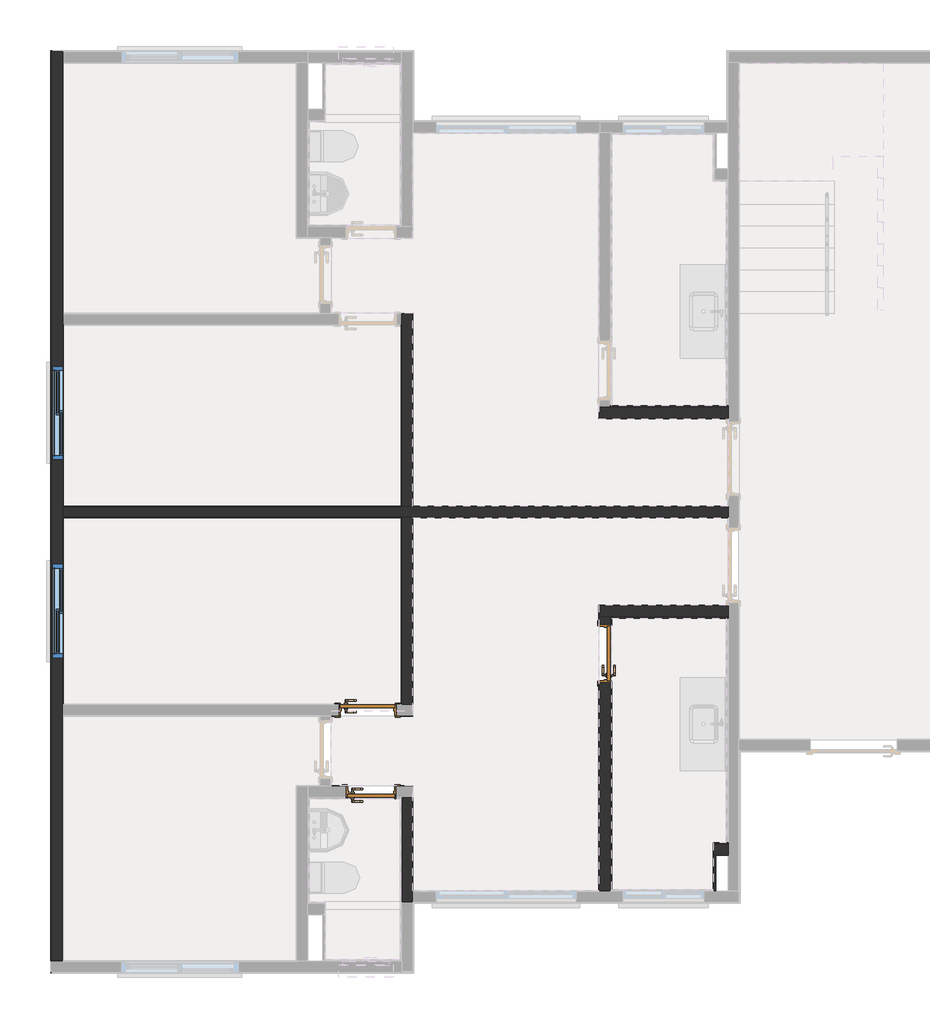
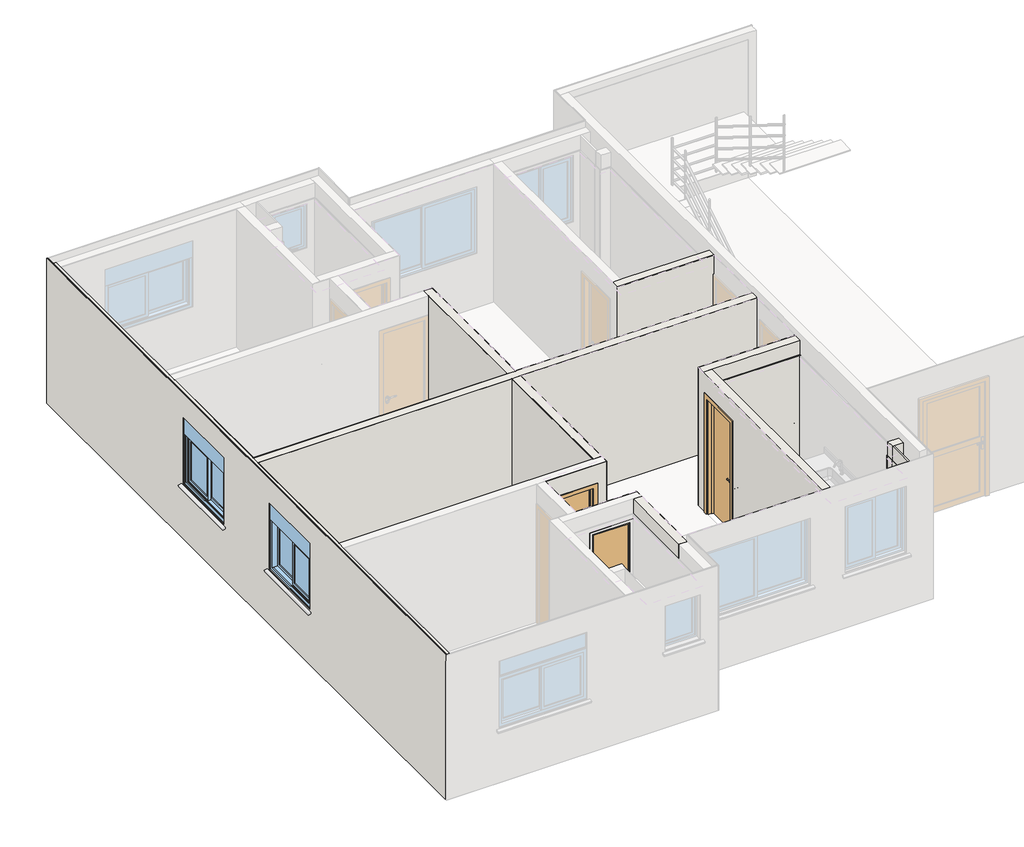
# One storey, part 2 of 9: 33 walls, 3 doors, 2 windows.
"""IFC4 building model written with IfcOpenShell, lengths in millimetres."""

from ifc_helpers import new_model, si_unit, frame, origin, place, context, project, spatial, polyline, outline, extrude, faceted_brep, transform, mapped, element, save
from components import porta_de_madeira_interna_60_x_210_porta_de_madeira_interna_53f76a03, porta_de_madeira_interna_70_x_210_porta_de_madeira_interna_d0067c94, porta_de_madeira_interna_70_x_210_porta_de_madeira_interna_f307109d, window_120x120_fed861a7, window_120x120_8f0dd2b5

model = new_model("IFC4")

# Units and contexts
model_context = context("Model", 3, world=origin())
ifc_project = project(units=[si_unit("LENGTHUNIT", "METRE", prefix="MILLI")], contexts=[model_context])

# Site, building, storey
site = spatial("IfcSite", under=ifc_project)
building = spatial("IfcBuilding", under=site)
storey = spatial("IfcBuildingStorey", under=building, Name="3º Pavimento", Elevation=5260.0)

# Doors
placement = place(None, origin())
porta_de_madeira_interna_60_x_210_porta_de_madeira_interna_shape = porta_de_madeira_interna_60_x_210_porta_de_madeira_interna_53f76a03(model_context)
element("IfcDoor", 1, ObjectType="Porta de Madeira Interna 60 x 210 : Porta de Madeira Interna 60 x 210", at=placement, inside=storey, context=model_context, shape_type="MappedRepresentation", body=[
    mapped(porta_de_madeira_interna_60_x_210_porta_de_madeira_interna_shape, transform((4137.9990083, 2796.8217615, 5260.0), x_axis=(1.0, 0.0, 0.0), y_axis=(0.0, 1.0, 0.0), z_axis=(0.0, 0.0, 1.0))),
])
porta_de_madeira_interna_70_x_210_porta_de_madeira_interna_shape = porta_de_madeira_interna_70_x_210_porta_de_madeira_interna_d0067c94(model_context)
element("IfcDoor", 2, ObjectType="Porta de Madeira Interna 70 x 210 : Porta de Madeira Interna 70 x 210", at=placement, inside=storey, context=model_context, shape_type="MappedRepresentation", body=[
    mapped(porta_de_madeira_interna_70_x_210_porta_de_madeira_interna_shape, transform((4092.999908, 3853.1701411, 5260.0), x_axis=(1.0, 0.0, 0.0), y_axis=(0.0, 1.0, 0.0), z_axis=(0.0, 0.0, 1.0))),
])
porta_de_madeira_interna_70_x_210_porta_de_madeira_interna_2_shape = porta_de_madeira_interna_70_x_210_porta_de_madeira_interna_f307109d(model_context)
element("IfcDoor", 3, ObjectType="Porta de Madeira Interna 70 x 210 : Porta de Madeira Interna 70 x 210", at=placement, inside=storey, context=model_context, shape_type="MappedRepresentation", body=[
    mapped(porta_de_madeira_interna_70_x_210_porta_de_madeira_interna_2_shape, transform((7146.1736861, 4578.6603139, 5260.0), x_axis=(0.0, 1.0, 0.0), y_axis=(-1.0, 0.0, 0.0), z_axis=(0.0, 0.0, 1.0))),
])

# Walls
element("IfcWall", 4, ObjectType="Alvenaria Estrutural", at=placement, inside=storey, context=model_context, shape_type="Brep", body=[
    faceted_brep([(29.9991825, 12319.9951043, 5260.0), (29.9991825, 619.9952456, 5260.0), (29.9991825, 619.9952456, 7770.0), (29.9991825, 12319.9951043, 7770.0), (29.9991825, 5725.0101878, 6260.0), (29.9991825, 5725.0101878, 7460.0), (29.9991825, 4525.0101878, 7460.0), (29.9991825, 4525.0101878, 6260.0), (29.9991825, 4475.0101878, 6260.0), (29.9991825, 4475.0101878, 6211.3083694), (29.9991825, 5775.0101878, 6211.3083694), (29.9991825, 5775.0101878, 6260.0), (29.9991825, 7025.01044, 6260.0), (29.9991825, 7025.01044, 6211.3083694), (29.9991825, 8325.01044, 6211.3083694), (29.9991825, 8325.01044, 6260.0), (29.9991825, 8275.01044, 6260.0), (29.9991825, 8275.01044, 7460.0), (29.9991825, 7075.01044, 7460.0), (29.9991825, 7075.01044, 6260.0), (169.9991825, 619.9952456, 5260.0), (169.9991825, 3773.9951411, 5260.0), (169.9991825, 3779.9951411, 5260.0), (169.9991825, 3919.9951411, 5260.0), (169.9991825, 3925.9951411, 5260.0), (169.9991825, 6324.0103139, 5260.0), (169.9991825, 6330.0103139, 5260.0), (169.9991825, 6470.0103139, 5260.0), (169.9991825, 6476.0103139, 5260.0), (169.9991825, 8804.0244803, 5260.0), (169.9991825, 8810.0244803, 5260.0), (169.9991825, 8950.0244803, 5260.0), (169.9991825, 8956.0244803, 5260.0), (169.9991825, 12180.0252435, 5260.0), (169.9991825, 12319.9951043, 5260.0), (169.9991825, 12319.9951043, 7770.0), (169.9991825, 12180.0252435, 7770.0), (169.9991825, 8956.0244803, 7770.0), (169.9991825, 8950.0244803, 7770.0), (169.9991825, 8810.0244803, 7770.0), (169.9991825, 8804.0244803, 7770.0), (169.9991825, 6476.0103139, 7770.0), (169.9991825, 6470.0103139, 7770.0), (169.9991825, 6330.0103139, 7770.0), (169.9991825, 6324.0103139, 7770.0), (169.9991825, 3925.9951411, 7770.0), (169.9991825, 3919.9951411, 7770.0), (169.9991825, 3779.9951411, 7770.0), (169.9991825, 3773.9951411, 7770.0), (169.9991825, 619.9952456, 7770.0), (169.9991825, 5725.0101878, 7460.0), (169.9991825, 5725.0101878, 6260.0), (169.9991825, 4525.0101878, 6260.0), (169.9991825, 4525.0101878, 7460.0), (169.9991825, 7075.01044, 6260.0), (169.9991825, 7075.01044, 7460.0), (169.9991825, 8275.01044, 7460.0), (169.9991825, 8275.01044, 6260.0), (127.4991825, 5725.0101878, 6260.0), (127.4991825, 4525.0101878, 6260.0), (127.4991825, 7075.01044, 6260.0), (127.4991825, 8275.01044, 6260.0), (127.4991825, 4475.0101878, 6260.0), (127.4991825, 4475.0101878, 6232.0326341), (127.4991825, 5775.0101878, 6232.0326341), (127.4991825, 5775.0101878, 6260.0), (127.4991825, 7025.01044, 6260.0), (127.4991825, 7025.01044, 6232.0326341), (127.4991825, 8325.01044, 6232.0326341), (127.4991825, 8325.01044, 6260.0)], [[[0, 1, 2, 3], [4, 5, 6, 7, 8, 9, 10, 11], [12, 13, 14, 15, 16, 17, 18, 19]], [[20, 21, 22, 23, 24, 25, 26, 27, 28, 29, 30, 31, 32, 33, 34, 35, 36, 37, 38, 39, 40, 41, 42, 43, 44, 45, 46, 47, 48, 49], [50, 51, 52, 53], [54, 55, 56, 57]], [[5, 4, 58, 51, 50]], [[6, 5, 50, 53]], [[7, 6, 53, 52, 59]], [[52, 51, 58, 59]], [[19, 18, 55, 54, 60]], [[18, 17, 56, 55]], [[17, 16, 61, 57, 56]], [[54, 57, 61, 60]], [[1, 0, 34, 33, 32, 31, 30, 29, 28, 27, 26, 25, 24, 23, 22, 21, 20]], [[2, 1, 20, 49]], [[3, 2, 49, 48, 47, 46, 45, 44, 43, 42, 41, 40, 39, 38, 37, 36, 35]], [[0, 3, 35, 34]], [[9, 8, 62, 63]], [[11, 10, 64, 65]], [[59, 58, 65, 64, 63, 62]], [[8, 7, 59, 62]], [[10, 9, 63, 64]], [[13, 12, 66, 67]], [[15, 14, 68, 69]], [[60, 61, 69, 68, 67, 66]], [[12, 19, 60, 66]], [[14, 13, 67, 68]], [[16, 15, 69, 61]], [[4, 11, 65, 58]]]),
])
element("IfcWall", 5, ObjectType="Alvenaria Estrutural", at=placement, inside=storey, context=model_context, shape_type="Brep", body=[
    faceted_brep([(169.9991825, 6330.0103139, 5260.0), (175.9991825, 6330.0103139, 5260.0), (4523.9996867, 6330.0103139, 5260.0), (4529.9996867, 6330.0103139, 5260.0), (4669.9996867, 6330.0103139, 5260.0), (4675.9996867, 6330.0103139, 5260.0), (8723.9963008, 6330.0103139, 5260.0), (8729.9963008, 6330.0103139, 5260.0), (8729.9963008, 6330.0103139, 7770.0), (8723.9963008, 6330.0103139, 7770.0), (4675.9996867, 6330.0103139, 7770.0), (4669.9996867, 6330.0103139, 7770.0), (4529.9996867, 6330.0103139, 7770.0), (4523.9996867, 6330.0103139, 7770.0), (175.9991825, 6330.0103139, 7770.0), (169.9991825, 6330.0103139, 7770.0), (169.9991825, 6470.0103139, 5260.0), (169.9991825, 6470.0103139, 7770.0), (175.9991825, 6470.0103139, 7770.0), (4523.9996867, 6470.0103139, 7770.0), (4529.9996867, 6470.0103139, 7770.0), (4669.9996867, 6470.0103139, 7770.0), (4675.9996867, 6470.0103139, 7770.0), (8723.9963008, 6470.0103139, 7770.0), (8729.9963008, 6470.0103139, 7770.0), (8729.9963008, 6470.0103139, 5260.0), (8723.9963008, 6470.0103139, 5260.0), (4675.9996867, 6470.0103139, 5260.0), (4669.9996867, 6470.0103139, 5260.0), (4529.9996867, 6470.0103139, 5260.0), (4523.9996867, 6470.0103139, 5260.0), (175.9991825, 6470.0103139, 5260.0)], [[[0, 1, 2, 3, 4, 5, 6, 7, 8, 9, 10, 11, 12, 13, 14, 15]], [[16, 17, 18, 19, 20, 21, 22, 23, 24, 25, 26, 27, 28, 29, 30, 31]], [[1, 0, 16, 31, 30, 29, 28, 27, 26, 25, 7, 6, 5, 4, 3, 2]], [[9, 8, 24, 23, 22, 21, 20, 19, 18, 17, 15, 14, 13, 12, 11, 10]], [[8, 7, 25, 24]], [[0, 15, 17, 16]]]),
])
element("IfcWall", 6, ObjectType="Alvenaria Estrutural", at=placement, inside=storey, context=model_context, shape_type="Brep", body=[
    faceted_brep([(4529.9996867, 6330.0103139, 5260.0), (4529.9996867, 6324.0103139, 5260.0), (4529.9996867, 3925.9951411, 5260.0), (4529.9996867, 3919.9951411, 5260.0), (4529.9996867, 3919.9951411, 7770.0), (4529.9996867, 3925.9951411, 7770.0), (4529.9996867, 6324.0103139, 7770.0), (4529.9996867, 6330.0103139, 7770.0), (4669.9996867, 6330.0103139, 5260.0), (4669.9996867, 6330.0103139, 7770.0), (4669.9996867, 6324.0103139, 7770.0), (4669.9996867, 3919.9951411, 7770.0), (4669.9996867, 3919.9951411, 5260.0), (4669.9996867, 6324.0103139, 5260.0)], [[[0, 1, 2, 3, 4, 5, 6, 7]], [[8, 9, 10, 11, 12, 13]], [[1, 0, 8, 13, 12, 3, 2]], [[5, 4, 11, 10, 9, 7, 6]], [[0, 7, 9, 8]], [[4, 3, 12, 11]]]),
])
element("IfcWall", 7, ObjectType="Alvenaria Estrutural", at=placement, inside=storey, context=model_context, shape_type="Brep", body=[
    faceted_brep([(4669.9990083, 1374.9970972, 5260.0), (4669.9990083, 1519.9983274, 5260.0), (4669.9990083, 1525.9983274, 5260.0), (4669.9990083, 2729.9967615, 5260.0), (4669.9990083, 2729.9967615, 7770.0), (4669.9990083, 1525.9983274, 7770.0), (4669.9990083, 1519.9983274, 7770.0), (4669.9990083, 1374.9970972, 7770.0), (4529.9990083, 1374.9970972, 5260.0), (4529.9990083, 1374.9970972, 7770.0), (4529.9990083, 2729.9967615, 7770.0), (4529.9990083, 2729.9967615, 7510.0), (4529.9990083, 2729.9967615, 5260.0), (4529.9990083, 2709.9967615, 5260.0)], [[[0, 1, 2, 3, 4, 5, 6, 7]], [[8, 9, 10, 11, 12, 13]], [[1, 0, 8, 13, 12, 3, 2]], [[5, 4, 10, 9, 7, 6]], [[0, 7, 9, 8]], [[4, 3, 12, 11, 10]]]),
])
element("IfcWall", 8, ObjectType="Alvenaria Estrutural", at=placement, inside=storey, context=model_context, shape_type="Brep", body=[
    faceted_brep([(4669.9996867, 6470.0103139, 5260.0), (4669.9996867, 6476.0103139, 5260.0), (4669.9996867, 8950.0244803, 5260.0), (4669.9996867, 8950.0244803, 7770.0), (4669.9996867, 6476.0103139, 7770.0), (4669.9996867, 6470.0103139, 7770.0), (4529.9996867, 6470.0103139, 5260.0), (4529.9996867, 6470.0103139, 7770.0), (4529.9996867, 6476.0103139, 7770.0), (4529.9996867, 8804.0244803, 7770.0), (4529.9996867, 8810.0244803, 7770.0), (4529.9996867, 8950.0244803, 7770.0), (4529.9996867, 8950.0244803, 5260.0), (4529.9996867, 8810.0244803, 5260.0), (4529.9996867, 8804.0244803, 5260.0), (4529.9996867, 6476.0103139, 5260.0)], [[[0, 1, 2, 3, 4, 5]], [[6, 7, 8, 9, 10, 11, 12, 13, 14, 15]], [[1, 0, 6, 15, 14, 13, 12, 2]], [[4, 3, 11, 10, 9, 8, 7, 5]], [[3, 2, 12, 11]], [[0, 5, 7, 6]]]),
])
element("IfcWall", 9, ObjectType="Alvenaria Estrutural", at=placement, inside=storey, context=model_context, shape_type="Brep", body=[
    faceted_brep([(8729.9963008, 2125.0132549, 5260.0), (8709.9963008, 2125.0132549, 5260.0), (8546.99631, 2125.0132549, 5260.0), (8546.99631, 2125.0132549, 7770.0), (8729.9963008, 2125.0132549, 7770.0), (8729.9963008, 2125.0132549, 7510.0), (8729.9963008, 1985.0132549, 5260.0), (8729.9963008, 1985.0132549, 7770.0), (8569.99631, 1985.0132549, 7770.0), (8546.99631, 1985.0132549, 7770.0), (8546.99631, 1985.0132549, 5260.0), (8569.99631, 1985.0132549, 5260.0)], [[[0, 1, 2, 3, 4, 5]], [[6, 7, 8, 9, 10, 11]], [[1, 0, 6, 11, 10, 2]], [[4, 3, 9, 8, 7]], [[3, 2, 10, 9]], [[5, 4, 7, 6, 0]]]),
])
element("IfcWall", 10, ObjectType="Alvenaria Estrutural", at=placement, inside=storey, context=model_context, shape_type="Brep", body=[
    faceted_brep([(8729.9963008, 5193.6603139, 5260.0), (8723.9963008, 5193.6603139, 5260.0), (7072.9986861, 5193.6603139, 5260.0), (7072.9986861, 5193.6603139, 7770.0), (8723.9963008, 5193.6603139, 7770.0), (8729.9963008, 5193.6603139, 7770.0), (8729.9963008, 5053.6603139, 5260.0), (8729.9963008, 5053.6603139, 7510.0), (8729.9963008, 5053.6603139, 7770.0), (7212.9986861, 5053.6603139, 7770.0), (7072.9986861, 5053.6603139, 7770.0), (7072.9986861, 5053.6603139, 5260.0), (7212.9986861, 5053.6603139, 5260.0), (7233.0017324, 5053.6603139, 5260.0), (8709.9963008, 5053.6603139, 5260.0)], [[[0, 1, 2, 3, 4, 5]], [[6, 7, 8, 9, 10, 11, 12, 13, 14]], [[1, 0, 6, 14, 13, 12, 11, 2]], [[4, 3, 10, 9, 8, 5]], [[3, 2, 11, 10]], [[0, 5, 8, 7, 6]]]),
])
element("IfcWall", 11, ObjectType="Alvenaria Estrutural", at=placement, inside=storey, context=model_context, shape_type="Brep", body=[
    faceted_brep([(7212.9986861, 1519.9983274, 5260.0), (7212.9986861, 1519.9983274, 5270.0), (7212.9986861, 1519.9983274, 7510.0), (7212.9986861, 1519.9983274, 7770.0), (7072.9986861, 1519.9983274, 7770.0), (7072.9986861, 1519.9983274, 5270.0), (7072.9986861, 1519.9983274, 5260.0), (7212.9986861, 1539.9983274, 5260.0), (7072.9986861, 1525.9983274, 5260.0), (7072.9986861, 4203.6603139, 5260.0), (7212.9986861, 4203.6603139, 5260.0), (7212.9986861, 4203.6603139, 5270.0), (7072.9986861, 4203.6603139, 5270.0), (7072.9986861, 4203.6603139, 7385.0), (7212.9986861, 4203.6603139, 7385.0), (7212.9986861, 4953.6603139, 5260.0), (7212.9986861, 4953.6603139, 5270.0), (7212.9986861, 4953.6603139, 7385.0), (7072.9986861, 4953.6603139, 7385.0), (7072.9986861, 4953.6603139, 5270.0), (7072.9986861, 4953.6603139, 5260.0), (7212.9986861, 5033.6603139, 5260.0), (7072.9986861, 5053.6603139, 5260.0), (7212.9986861, 5053.6603139, 5260.0), (7212.9986861, 5053.6603139, 5270.0), (7072.9986861, 5053.6603139, 5270.0), (7072.9986861, 5053.6603139, 7770.0), (7212.9986861, 5053.6603139, 7770.0), (7212.9986861, 5053.6603139, 7510.0), (7072.9986861, 1525.9983274, 7770.0)], [[[0, 1, 2, 3, 4, 5, 6]], [[7, 0, 6, 8, 9, 10]], [[11, 10, 9, 12, 13, 14]], [[15, 16, 17, 18, 19, 20]], [[21, 15, 20, 22, 23]], [[24, 23, 22, 25, 26, 27, 28]], [[25, 22, 20, 19, 18, 13, 12, 9, 8, 6, 5, 4, 29, 26]], [[3, 27, 26, 29, 4]], [[17, 14, 13, 18]], [[16, 15, 21, 23, 24, 28, 27, 3, 2, 1, 0, 7, 10, 11, 14, 17]]]),
])
element("IfcWall", 12, ObjectType="Alvenaria Estrutural", at=placement, inside=storey, context=model_context, shape_type="Brep", body=[
    faceted_brep([(8729.9963008, 7746.3603139, 5260.0), (8709.9963008, 7746.3603139, 5260.0), (7233.0017324, 7746.3603139, 5260.0), (7212.9986861, 7746.3603139, 5260.0), (7072.9986861, 7746.3603139, 5260.0), (7072.9986861, 7746.3603139, 7770.0), (7212.9986861, 7746.3603139, 7770.0), (8729.9963008, 7746.3603139, 7770.0), (8729.9963008, 7746.3603139, 7510.0), (8729.9963008, 7606.3603139, 5260.0), (8729.9963008, 7606.3603139, 7770.0), (8723.9963008, 7606.3603139, 7770.0), (7072.9986861, 7606.3603139, 7770.0), (7072.9986861, 7606.3603139, 5260.0), (8723.9963008, 7606.3603139, 5260.0)], [[[0, 1, 2, 3, 4, 5, 6, 7, 8]], [[9, 10, 11, 12, 13, 14]], [[1, 0, 9, 14, 13, 4, 3, 2]], [[6, 5, 12, 11, 10, 7]], [[5, 4, 13, 12]], [[8, 7, 10, 9, 0]]]),
])
element("IfcWall", 13, ObjectType="Azulejo", at=placement, inside=storey, context=model_context, shape_type="Brep", body=[
    faceted_brep([(7233.0017324, 4203.6603139, 5260.0), (7233.0017324, 1519.9983274, 5260.0), (7223.0017324, 1519.9983274, 5260.0), (7223.0017324, 4203.6603139, 5260.0), (7223.0017324, 4203.6603139, 5270.0), (7223.0017324, 4203.6603139, 7385.0), (7233.0017324, 4203.6603139, 7385.0), (7233.0017324, 4203.6603139, 5270.0), (7233.0017324, 4953.6603139, 5260.0), (7233.0017324, 4953.6603139, 5270.0), (7233.0017324, 4953.6603139, 7385.0), (7223.0017324, 4953.6603139, 7385.0), (7223.0017324, 4953.6603139, 5270.0), (7223.0017324, 4953.6603139, 5260.0), (7223.0017324, 5053.6603139, 5260.0), (7233.0017324, 5053.6603139, 5260.0), (7233.0017324, 5053.6603139, 5270.0), (7223.0017324, 5053.6603139, 5270.0), (7223.0017324, 5053.6603139, 7510.0), (7233.0017324, 5053.6603139, 7510.0), (7233.0017324, 1519.9983274, 5270.0), (7233.0017324, 1519.9983274, 7510.0), (7223.0017324, 1519.9983274, 7510.0), (7223.0017324, 1519.9983274, 5270.0)], [[[0, 1, 2, 3]], [[0, 3, 4, 5, 6, 7]], [[8, 9, 10, 11, 12, 13]], [[8, 13, 14, 15]], [[16, 15, 14, 17, 18, 19]], [[2, 1, 20, 21, 22, 23]], [[1, 0, 7, 6, 10, 9, 8, 15, 16, 19, 21, 20]], [[3, 2, 23, 22, 18, 17, 14, 13, 12, 11, 5, 4]], [[10, 6, 5, 11]], [[21, 19, 18, 22]]]),
    faceted_brep([(7223.0017324, 4203.6603139, 5260.0), (7223.0017324, 1519.9983274, 5260.0), (7213.0017324, 1519.9983274, 5260.0), (7213.0017324, 4203.6603139, 5260.0), (7223.0017324, 4203.6603139, 5270.0), (7213.0017324, 4203.6603139, 5270.0), (7213.0017324, 4203.6603139, 7385.0), (7223.0017324, 4203.6603139, 7385.0), (7223.0017324, 4953.6603139, 5260.0), (7223.0017324, 4953.6603139, 5270.0), (7223.0017324, 4953.6603139, 7385.0), (7213.0017324, 4953.6603139, 7385.0), (7213.0017324, 4953.6603139, 5270.0), (7213.0017324, 4953.6603139, 5260.0), (7223.0017324, 5053.6603139, 5260.0), (7213.0017324, 5053.6603139, 5260.0), (7223.0017324, 5053.6603139, 5270.0), (7213.0017324, 5053.6603139, 5270.0), (7213.0017324, 5053.6603139, 7510.0), (7223.0017324, 5053.6603139, 7510.0), (7223.0017324, 1519.9983274, 5270.0), (7223.0017324, 1519.9983274, 7510.0), (7213.0017324, 1519.9983274, 7510.0), (7213.0017324, 1519.9983274, 5270.0)], [[[0, 1, 2, 3]], [[4, 0, 3, 5, 6, 7]], [[8, 9, 10, 11, 12, 13]], [[14, 8, 13, 15]], [[16, 14, 15, 17, 18, 19]], [[1, 20, 21, 22, 23, 2]], [[17, 15, 13, 12, 11, 6, 5, 3, 2, 23, 22, 18]], [[10, 7, 6, 11]], [[21, 19, 18, 22]], [[9, 8, 14, 16, 19, 21, 20, 1, 0, 4, 7, 10]]]),
])
element("IfcWall", 14, ObjectType="Azulejo", at=placement, inside=storey, context=model_context, shape_type="SweptSolid", body=[
    extrude(outline(polyline([(8729.9963008, 5033.6603139), (7212.9986861, 5033.6603139), (7212.9986861, 5043.6603139), (8729.9963008, 5043.6603139), (8729.9963008, 5033.6603139)])), frame((0.0, 0.0, 5260.0), z_axis=(0.0, 0.0, 1.0), x_axis=(1.0, 0.0, 0.0)), (0.0, 0.0, 1.0), 2250.0),
    extrude(outline(polyline([(7212.9986861, 5053.6603139), (8729.9963008, 5053.6603139), (8729.9963008, 5043.6603139), (7212.9986861, 5043.6603139), (7212.9986861, 5053.6603139)])), frame((0.0, 0.0, 5260.0), z_axis=(0.0, 0.0, 1.0), x_axis=(1.0, 0.0, 0.0)), (0.0, 0.0, 1.0), 2250.0),
])
element("IfcWall", 15, ObjectType="Azulejo", at=placement, inside=storey, context=model_context, shape_type="SolidModel", body=[
    extrude(outline(polyline([(8536.99631, 2145.0132549), (8729.9963008, 2145.0132549), (8729.9963008, 2135.0132549), (8536.99631, 2135.0132549), (8536.99631, 2145.0132549)])), frame((0.0, 0.0, 5260.0), z_axis=(0.0, 0.0, 1.0), x_axis=(1.0, 0.0, 0.0)), (0.0, 0.0, 1.0), 2250.0),
    faceted_brep([(8729.9963008, 2135.0132549, 5260.0), (8546.99631, 2135.0132549, 5260.0), (8546.99631, 2135.0132549, 7510.0), (8729.9963008, 2135.0132549, 7510.0), (8546.99631, 2125.0132549, 5260.0), (8556.99631, 2125.0132549, 5260.0), (8729.9963008, 2125.0132549, 5260.0), (8729.9963008, 2125.0132549, 7510.0), (8556.99631, 2125.0132549, 7510.0), (8546.99631, 2125.0132549, 7510.0)], [[[0, 1, 2, 3]], [[4, 5, 6, 7, 8, 9]], [[5, 4, 1, 0, 6]], [[8, 7, 3, 2, 9]], [[7, 6, 0, 3]], [[4, 9, 2, 1]]]),
])
element("IfcWall", 16, ObjectType="Azulejo", at=placement, inside=storey, context=model_context, shape_type="SweptSolid", body=[
    extrude(outline(polyline([(8536.99631, 1985.0132549), (8536.99631, 2135.0132549), (8546.99631, 2135.0132549), (8546.99631, 1985.0132549), (8536.99631, 1985.0132549)])), frame((0.0, 0.0, 5260.0), z_axis=(0.0, 0.0, 1.0), x_axis=(1.0, 0.0, 0.0)), (0.0, 0.0, 1.0), 2250.0),
    extrude(outline(polyline([(8556.99631, 2125.0132549), (8556.99631, 1985.0132549), (8546.99631, 1985.0132549), (8546.99631, 2125.0132549), (8556.99631, 2125.0132549)])), frame((0.0, 0.0, 5260.0), z_axis=(0.0, 0.0, 1.0), x_axis=(1.0, 0.0, 0.0)), (0.0, 0.0, 1.0), 2250.0),
])
element("IfcWall", 17, ObjectType="Azulejo", at=placement, inside=storey, context=model_context, shape_type="SweptSolid", body=[
    extrude(outline(polyline([(7212.9986861, 7766.3603139), (8729.9963008, 7766.3603139), (8729.9963008, 7756.3603139), (7212.9986861, 7756.3603139), (7212.9986861, 7766.3603139)])), frame((0.0, 0.0, 5260.0), z_axis=(0.0, 0.0, 1.0), x_axis=(1.0, 0.0, 0.0)), (0.0, 0.0, 1.0), 2250.0),
    extrude(outline(polyline([(8729.9963008, 7746.3603139), (7212.9986861, 7746.3603139), (7212.9986861, 7756.3603139), (8729.9963008, 7756.3603139), (8729.9963008, 7746.3603139)])), frame((0.0, 0.0, 5260.0), z_axis=(0.0, 0.0, 1.0), x_axis=(1.0, 0.0, 0.0)), (0.0, 0.0, 1.0), 2250.0),
])
element("IfcWall", 18, ObjectType="Azulejo - Shaft", at=placement, inside=storey, context=model_context, shape_type="SweptSolid", body=[
    extrude(outline(polyline([(8546.99631, 1985.0132549), (8546.99631, 1539.9983274), (8536.99631, 1539.9983274), (8536.99631, 1985.0132549), (8546.99631, 1985.0132549)])), frame((0.0, 0.0, 5260.0), z_axis=(0.0, 0.0, 1.0), x_axis=(1.0, 0.0, 0.0)), (0.0, 0.0, 1.0), 2250.0),
])
element("IfcWall", 19, ObjectType="Gesso Liso + Pintura", at=placement, inside=storey, context=model_context, shape_type="SweptSolid", body=[
    extrude(outline(polyline([(8810.0244803, 5260.0), (6470.0103139, 5260.0), (6470.0103139, 7770.0), (8810.0244803, 7770.0), (8810.0244803, 5260.0)]), holes=[polyline([(7075.01044, 7460.0), (7075.01044, 6260.0), (8275.01044, 6260.0), (8275.01044, 7460.0), (7075.01044, 7460.0)])]), frame((174.9991825, 0.0, 0.0), z_axis=(1.0, 0.0, 0.0), x_axis=(0.0, 1.0, 0.0)), (0.0, 0.0, 1.0), 1.0),
    extrude(outline(polyline([(6470.0103139, 5260.0), (6470.0103139, 7770.0), (8810.0244803, 7770.0), (8810.0244803, 5260.0), (6470.0103139, 5260.0)]), holes=[polyline([(7075.01044, 6260.0), (8275.01044, 6260.0), (8275.01044, 7460.0), (7075.01044, 7460.0), (7075.01044, 6260.0)])]), frame((169.9991825, 0.0, 0.0), z_axis=(1.0, 0.0, 0.0), x_axis=(0.0, 1.0, 0.0)), (0.0, 0.0, 1.0), 5.0),
])
element("IfcWall", 20, ObjectType="Gesso Liso + Pintura", at=placement, inside=storey, context=model_context, shape_type="SweptSolid", body=[
    extrude(outline(polyline([(4523.9996867, 6470.0103139), (4523.9996867, 8810.0244803), (4524.9996867, 8810.0244803), (4524.9996867, 6470.0103139), (4523.9996867, 6470.0103139)])), frame((0.0, 0.0, 5260.0), z_axis=(0.0, 0.0, 1.0), x_axis=(1.0, 0.0, 0.0)), (0.0, 0.0, 1.0), 2510.0),
    extrude(outline(polyline([(4529.9996867, 8810.0244803), (4529.9996867, 6470.0103139), (4524.9996867, 6470.0103139), (4524.9996867, 8810.0244803), (4529.9996867, 8810.0244803)])), frame((0.0, 0.0, 5260.0), z_axis=(0.0, 0.0, 1.0), x_axis=(1.0, 0.0, 0.0)), (0.0, 0.0, 1.0), 2510.0),
])
element("IfcWall", 21, ObjectType="Gesso Liso + Pintura", at=placement, inside=storey, context=model_context, shape_type="SweptSolid", body=[
    extrude(outline(polyline([(169.9991825, 6476.0103139), (4529.9996867, 6476.0103139), (4529.9996867, 6475.0103139), (169.9991825, 6475.0103139), (169.9991825, 6476.0103139)])), frame((0.0, 0.0, 5260.0), z_axis=(0.0, 0.0, 1.0), x_axis=(1.0, 0.0, 0.0)), (0.0, 0.0, 1.0), 2510.0),
    extrude(outline(polyline([(4529.9996867, 6470.0103139), (169.9991825, 6470.0103139), (169.9991825, 6475.0103139), (4529.9996867, 6475.0103139), (4529.9996867, 6470.0103139)])), frame((0.0, 0.0, 5260.0), z_axis=(0.0, 0.0, 1.0), x_axis=(1.0, 0.0, 0.0)), (0.0, 0.0, 1.0), 2510.0),
])
element("IfcWall", 22, ObjectType="Gesso Liso + Pintura", at=placement, inside=storey, context=model_context, shape_type="SweptSolid", body=[
    extrude(outline(polyline([(6330.0103139, 5260.0), (3919.9951411, 5260.0), (3919.9951411, 7770.0), (6330.0103139, 7770.0), (6330.0103139, 5260.0)]), holes=[polyline([(5725.0101878, 6260.0), (5725.0101878, 7460.0), (4525.0101878, 7460.0), (4525.0101878, 6260.0), (5725.0101878, 6260.0)])]), frame((174.9991825, 0.0, 0.0), z_axis=(1.0, 0.0, 0.0), x_axis=(0.0, 1.0, 0.0)), (0.0, 0.0, 1.0), 1.0),
    extrude(outline(polyline([(6330.0103139, 5260.0), (3919.9951411, 5260.0), (3919.9951411, 7770.0), (6330.0103139, 7770.0), (6330.0103139, 5260.0)]), holes=[polyline([(5725.0101878, 6260.0), (5725.0101878, 7460.0), (4525.0101878, 7460.0), (4525.0101878, 6260.0), (5725.0101878, 6260.0)])]), frame((169.9991825, 0.0, 0.0), z_axis=(1.0, 0.0, 0.0), x_axis=(0.0, 1.0, 0.0)), (0.0, 0.0, 1.0), 5.0),
])
element("IfcWall", 23, ObjectType="Gesso Liso + Pintura", at=placement, inside=storey, context=model_context, shape_type="SweptSolid", body=[
    extrude(outline(polyline([(4523.9996867, 3919.9951411), (4523.9996867, 6330.0103139), (4524.9996867, 6330.0103139), (4524.9996867, 3919.9951411), (4523.9996867, 3919.9951411)])), frame((0.0, 0.0, 5260.0), z_axis=(0.0, 0.0, 1.0), x_axis=(1.0, 0.0, 0.0)), (0.0, 0.0, 1.0), 2510.0),
    extrude(outline(polyline([(4529.9996867, 6330.0103139), (4529.9996867, 3919.9951411), (4524.9996867, 3919.9951411), (4524.9996867, 6330.0103139), (4529.9996867, 6330.0103139)])), frame((0.0, 0.0, 5260.0), z_axis=(0.0, 0.0, 1.0), x_axis=(1.0, 0.0, 0.0)), (0.0, 0.0, 1.0), 2510.0),
])
element("IfcWall", 24, ObjectType="Gesso Liso + Pintura", at=placement, inside=storey, context=model_context, shape_type="SweptSolid", body=[
    extrude(outline(polyline([(4529.9996867, 6324.0103139), (169.9991825, 6324.0103139), (169.9991825, 6325.0103139), (4529.9996867, 6325.0103139), (4529.9996867, 6324.0103139)])), frame((0.0, 0.0, 5260.0), z_axis=(0.0, 0.0, 1.0), x_axis=(1.0, 0.0, 0.0)), (0.0, 0.0, 1.0), 2510.0),
    extrude(outline(polyline([(169.9991825, 6330.0103139), (4529.9996867, 6330.0103139), (4529.9996867, 6325.0103139), (169.9991825, 6325.0103139), (169.9991825, 6330.0103139)])), frame((0.0, 0.0, 5260.0), z_axis=(0.0, 0.0, 1.0), x_axis=(1.0, 0.0, 0.0)), (0.0, 0.0, 1.0), 2510.0),
])
element("IfcWall", 25, ObjectType="Gesso Liso + Pintura", at=placement, inside=storey, context=model_context, shape_type="Brep", body=[
    faceted_brep([(4675.9990083, 2875.9967615, 5260.0), (4675.9990083, 1519.9983274, 5260.0), (4674.9990083, 1519.9983274, 5260.0), (4674.9990083, 2875.9967615, 5260.0), (4674.9990083, 2875.9967615, 5270.0), (4674.9990083, 2875.9967615, 7770.0), (4675.9990083, 2875.9967615, 7770.0), (4675.9990083, 2875.9967615, 5270.0), (4675.9990083, 1519.9983274, 5270.0), (4675.9990083, 1519.9983274, 7770.0), (4674.9990083, 1519.9983274, 7770.0), (4674.9990083, 1519.9983274, 5270.0)], [[[0, 1, 2, 3]], [[0, 3, 4, 5, 6, 7]], [[2, 1, 8, 9, 10, 11]], [[1, 0, 7, 6, 9, 8]], [[3, 2, 11, 10, 5, 4]], [[9, 6, 5, 10]]]),
    faceted_brep([(4674.9990083, 1519.9983274, 5260.0), (4674.9990083, 2874.9967615, 5260.0), (4674.9990083, 2874.9967615, 5270.0), (4674.9990083, 2874.9967615, 7770.0), (4674.9990083, 1519.9983274, 7770.0), (4674.9990083, 1519.9983274, 5270.0), (4669.9990083, 1519.9983274, 5260.0), (4669.9990083, 2869.9967615, 5260.0), (4669.9990083, 2874.9967615, 5260.0), (4669.9990083, 1519.9983274, 7770.0), (4669.9990083, 1519.9983274, 5270.0), (4669.9990083, 2869.9967615, 7770.0), (4669.9990083, 2874.9967615, 7770.0), (4669.9990083, 2874.9967615, 5270.0)], [[[0, 1, 2, 3, 4, 5]], [[1, 0, 6, 7, 8]], [[0, 5, 4, 9, 10, 6]], [[6, 10, 9, 11, 12, 13, 8, 7]], [[8, 13, 12, 3, 2, 1]], [[4, 3, 12, 11, 9]]]),
])
element("IfcWall", 26, ObjectType="Gesso Liso + Pintura", at=placement, inside=storey, context=model_context, shape_type="SweptSolid", body=[
    extrude(outline(polyline([(5260.0, 4462.9990083), (5260.0, 4674.9990083), (7770.0, 4674.9990083), (7770.0, 3619.9980641), (5260.0, 3619.9980641), (5260.0, 3812.9990083), (7385.0, 3812.9990083), (7385.0, 4462.9990083), (5260.0, 4462.9990083)])), frame((0.0, 2874.9967615, 0.0), z_axis=(0.0, 1.0, 0.0), x_axis=(0.0, 0.0, 1.0)), (0.0, 0.0, 1.0), 1.0),
    extrude(outline(polyline([(7770.0, 4669.9990083), (7770.0, 3619.9980641), (5260.0, 3619.9980641), (5260.0, 3812.9990083), (7385.0, 3812.9990083), (7385.0, 4462.9990083), (5260.0, 4462.9990083), (5260.0, 4669.9990083), (7770.0, 4669.9990083)])), frame((0.0, 2869.9967615, 0.0), z_axis=(0.0, 1.0, 0.0), x_axis=(0.0, 0.0, 1.0)), (0.0, 0.0, 1.0), 5.0),
])
element("IfcWall", 27, ObjectType="Gesso Liso + Pintura", at=placement, inside=storey, context=model_context, shape_type="SolidModel", body=[
    extrude(outline(polyline([(7770.0, 4675.9996867), (7770.0, 3619.9980641), (5260.0, 3619.9980641), (5260.0, 3717.999908), (7385.0, 3717.999908), (7385.0, 4467.999908), (5260.0, 4467.999908), (5260.0, 4675.9996867), (7770.0, 4675.9996867)])), frame((0.0, 3773.9951411, 0.0), z_axis=(0.0, 1.0, 0.0), x_axis=(0.0, 0.0, 1.0)), (0.0, 0.0, 1.0), 1.0),
    faceted_brep([(4467.999908, 3774.9951411, 5260.0), (4674.9996867, 3774.9951411, 5260.0), (4674.9996867, 3774.9951411, 7770.0), (3619.9980641, 3774.9951411, 7770.0), (3619.9980641, 3774.9951411, 5260.0), (3717.999908, 3774.9951411, 5260.0), (3717.999908, 3774.9951411, 7385.0), (4467.999908, 3774.9951411, 7385.0), (3619.9980641, 3779.9951411, 7770.0), (4669.9996867, 3779.9951411, 7770.0), (4674.9996867, 3779.9951411, 7770.0), (4674.9996867, 3779.9951411, 5260.0), (4669.9996867, 3779.9951411, 5260.0), (4467.999908, 3779.9951411, 5260.0), (4467.999908, 3779.9951411, 7385.0), (3717.999908, 3779.9951411, 7385.0), (3717.999908, 3779.9951411, 5260.0), (3619.9980641, 3779.9951411, 5260.0)], [[[0, 1, 2, 3, 4, 5, 6, 7]], [[8, 9, 10, 11, 12, 13, 14, 15, 16, 17]], [[17, 16, 5, 4]], [[9, 8, 3, 2, 10]], [[14, 13, 0, 7]], [[15, 14, 7, 6]], [[16, 15, 6, 5]], [[8, 17, 4, 3]], [[12, 11, 1, 0, 13]], [[11, 10, 2, 1]]]),
])
element("IfcWall", 28, ObjectType="Gesso Liso + Pintura", at=placement, inside=storey, context=model_context, shape_type="SweptSolid", body=[
    extrude(outline(polyline([(4675.9996867, 6330.0103139), (4675.9996867, 3774.9951411), (4674.9996867, 3774.9951411), (4674.9996867, 6330.0103139), (4675.9996867, 6330.0103139)])), frame((0.0, 0.0, 5260.0), z_axis=(0.0, 0.0, 1.0), x_axis=(1.0, 0.0, 0.0)), (0.0, 0.0, 1.0), 2510.0),
    extrude(outline(polyline([(4669.9996867, 3779.9951411), (4669.9996867, 6330.0103139), (4674.9996867, 6330.0103139), (4674.9996867, 3779.9951411), (4669.9996867, 3779.9951411)])), frame((0.0, 0.0, 5260.0), z_axis=(0.0, 0.0, 1.0), x_axis=(1.0, 0.0, 0.0)), (0.0, 0.0, 1.0), 2510.0),
])
element("IfcWall", 29, ObjectType="Gesso Liso + Pintura", at=placement, inside=storey, context=model_context, shape_type="SweptSolid", body=[
    extrude(outline(polyline([(8729.9963008, 6324.0103139), (4669.9996867, 6324.0103139), (4669.9996867, 6325.0103139), (8729.9963008, 6325.0103139), (8729.9963008, 6324.0103139)])), frame((0.0, 0.0, 5260.0), z_axis=(0.0, 0.0, 1.0), x_axis=(1.0, 0.0, 0.0)), (0.0, 0.0, 1.0), 2510.0),
    extrude(outline(polyline([(4669.9996867, 6330.0103139), (8729.9963008, 6330.0103139), (8729.9963008, 6325.0103139), (4669.9996867, 6325.0103139), (4669.9996867, 6330.0103139)])), frame((0.0, 0.0, 5260.0), z_axis=(0.0, 0.0, 1.0), x_axis=(1.0, 0.0, 0.0)), (0.0, 0.0, 1.0), 2510.0),
])
element("IfcWall", 30, ObjectType="Gesso Liso + Pintura", at=placement, inside=storey, context=model_context, shape_type="SolidModel", body=[
    extrude(outline(polyline([(7066.9986861, 5199.6603139), (8723.9963008, 5199.6603139), (8723.9963008, 5198.6603139), (7066.9986861, 5198.6603139), (7066.9986861, 5199.6603139)])), frame((0.0, 0.0, 5260.0), z_axis=(0.0, 0.0, 1.0), x_axis=(1.0, 0.0, 0.0)), (0.0, 0.0, 1.0), 2510.0),
    faceted_brep([(8724.9963008, 5198.6603139, 5260.0), (7067.9986861, 5198.6603139, 5260.0), (7067.9986861, 5198.6603139, 7770.0), (8724.9963008, 5198.6603139, 7770.0), (7067.9986861, 5193.6603139, 5260.0), (7072.9986861, 5193.6603139, 5260.0), (8724.9963008, 5193.6603139, 5260.0), (8724.9963008, 5193.6603139, 7770.0), (7072.9986861, 5193.6603139, 7770.0), (7067.9986861, 5193.6603139, 7770.0)], [[[0, 1, 2, 3]], [[4, 5, 6, 7, 8, 9]], [[5, 4, 1, 0, 6]], [[8, 7, 3, 2, 9]], [[7, 6, 0, 3]], [[4, 9, 2, 1]]]),
])
element("IfcWall", 31, ObjectType="Gesso Liso + Pintura", at=placement, inside=storey, context=model_context, shape_type="Brep", body=[
    faceted_brep([(7066.9986861, 4203.6603139, 5260.0), (7067.9986861, 4203.6603139, 5260.0), (7067.9986861, 1519.9983274, 5260.0), (7066.9986861, 1519.9983274, 5260.0), (7066.9986861, 1519.9983274, 5270.0), (7067.9986861, 1519.9983274, 5270.0), (7067.9986861, 1519.9983274, 7770.0), (7066.9986861, 1519.9983274, 7770.0), (7066.9986861, 4953.6603139, 5260.0), (7066.9986861, 5198.6603139, 5260.0), (7067.9986861, 5198.6603139, 5260.0), (7067.9986861, 4953.6603139, 5260.0), (7067.9986861, 4953.6603139, 5270.0), (7067.9986861, 4953.6603139, 7385.0), (7066.9986861, 4953.6603139, 7385.0), (7066.9986861, 4953.6603139, 5270.0), (7066.9986861, 4203.6603139, 5270.0), (7066.9986861, 4203.6603139, 7385.0), (7067.9986861, 4203.6603139, 7385.0), (7067.9986861, 4203.6603139, 5270.0), (7066.9986861, 5198.6603139, 5270.0), (7066.9986861, 5198.6603139, 7770.0), (7067.9986861, 5198.6603139, 7770.0), (7067.9986861, 5198.6603139, 5270.0)], [[[0, 1, 2, 3]], [[4, 3, 2, 5, 6, 7]], [[8, 9, 10, 11]], [[8, 11, 12, 13, 14, 15]], [[0, 16, 17, 18, 19, 1]], [[9, 20, 21, 22, 23, 10]], [[21, 7, 6, 22]], [[17, 14, 13, 18]], [[1, 19, 18, 13, 12, 11, 10, 23, 22, 6, 5, 2]], [[16, 0, 3, 4, 7, 21, 20, 9, 8, 15, 14, 17]]]),
    faceted_brep([(7067.9986861, 1519.9983274, 5260.0), (7067.9986861, 4203.6603139, 5260.0), (7072.9986861, 4203.6603139, 5260.0), (7072.9986861, 1519.9983274, 5260.0), (7067.9986861, 1519.9983274, 5270.0), (7072.9986861, 1519.9983274, 5270.0), (7072.9986861, 1519.9983274, 7770.0), (7067.9986861, 1519.9983274, 7770.0), (7067.9986861, 5193.6603139, 5260.0), (7067.9986861, 5193.6603139, 5270.0), (7067.9986861, 5193.6603139, 7770.0), (7072.9986861, 5193.6603139, 7770.0), (7072.9986861, 5193.6603139, 5270.0), (7072.9986861, 5193.6603139, 5260.0), (7067.9986861, 4953.6603139, 5260.0), (7072.9986861, 5053.6603139, 5260.0), (7072.9986861, 4953.6603139, 5260.0), (7067.9986861, 4953.6603139, 5270.0), (7072.9986861, 4953.6603139, 5270.0), (7072.9986861, 4953.6603139, 7385.0), (7067.9986861, 4953.6603139, 7385.0), (7067.9986861, 4203.6603139, 5270.0), (7067.9986861, 4203.6603139, 7385.0), (7072.9986861, 4203.6603139, 7385.0), (7072.9986861, 4203.6603139, 5270.0), (7072.9986861, 5053.6603139, 7770.0)], [[[0, 1, 2, 3]], [[4, 0, 3, 5, 6, 7]], [[8, 9, 10, 11, 12, 13]], [[14, 8, 13, 15, 16]], [[17, 14, 16, 18, 19, 20]], [[1, 21, 22, 23, 24, 2]], [[5, 3, 2, 24, 23, 19, 18, 16, 15, 13, 12, 11, 25, 6]], [[10, 7, 6, 25, 11]], [[22, 20, 19, 23]], [[1, 0, 4, 7, 10, 9, 8, 14, 17, 20, 22, 21]]]),
])
element("IfcWall", 32, ObjectType="Gesso Liso + Pintura", at=placement, inside=storey, context=model_context, shape_type="SolidModel", body=[
    extrude(outline(polyline([(4675.9996867, 8956.0244803), (4675.9996867, 6470.0103139), (4674.9996867, 6470.0103139), (4674.9996867, 8956.0244803), (4675.9996867, 8956.0244803)])), frame((0.0, 0.0, 5260.0), z_axis=(0.0, 0.0, 1.0), x_axis=(1.0, 0.0, 0.0)), (0.0, 0.0, 1.0), 2510.0),
    faceted_brep([(4674.9996867, 6470.0103139, 5260.0), (4674.9996867, 8955.0244803, 5260.0), (4674.9996867, 8955.0244803, 7770.0), (4674.9996867, 6470.0103139, 7770.0), (4669.9996867, 8955.0244803, 5260.0), (4669.9996867, 8950.0244803, 5260.0), (4669.9996867, 6470.0103139, 5260.0), (4669.9996867, 6470.0103139, 7770.0), (4669.9996867, 8950.0244803, 7770.0), (4669.9996867, 8955.0244803, 7770.0)], [[[0, 1, 2, 3]], [[4, 5, 6, 7, 8, 9]], [[5, 4, 1, 0, 6]], [[8, 7, 3, 2, 9]], [[7, 6, 0, 3]], [[4, 9, 2, 1]]]),
])
element("IfcWall", 33, ObjectType="Gesso Liso + Pintura", at=placement, inside=storey, context=model_context, shape_type="SweptSolid", body=[
    extrude(outline(polyline([(4669.9996867, 6476.0103139), (8729.9963008, 6476.0103139), (8729.9963008, 6475.0103139), (4669.9996867, 6475.0103139), (4669.9996867, 6476.0103139)])), frame((0.0, 0.0, 5260.0), z_axis=(0.0, 0.0, 1.0), x_axis=(1.0, 0.0, 0.0)), (0.0, 0.0, 1.0), 2510.0),
    extrude(outline(polyline([(8729.9963008, 6470.0103139), (4669.9996867, 6470.0103139), (4669.9996867, 6475.0103139), (8729.9963008, 6475.0103139), (8729.9963008, 6470.0103139)])), frame((0.0, 0.0, 5260.0), z_axis=(0.0, 0.0, 1.0), x_axis=(1.0, 0.0, 0.0)), (0.0, 0.0, 1.0), 2510.0),
])
element("IfcWall", 34, ObjectType="Gesso Liso + Pintura", at=placement, inside=storey, context=model_context, shape_type="SolidModel", body=[
    extrude(outline(polyline([(8723.9963008, 7600.3603139), (7066.9986861, 7600.3603139), (7066.9986861, 7601.3603139), (8723.9963008, 7601.3603139), (8723.9963008, 7600.3603139)])), frame((0.0, 0.0, 5260.0), z_axis=(0.0, 0.0, 1.0), x_axis=(1.0, 0.0, 0.0)), (0.0, 0.0, 1.0), 2510.0),
    faceted_brep([(7067.9986861, 7601.3603139, 5260.0), (8724.9963008, 7601.3603139, 5260.0), (8724.9963008, 7601.3603139, 7770.0), (7067.9986861, 7601.3603139, 7770.0), (7067.9986861, 7606.3603139, 5260.0), (7067.9986861, 7606.3603139, 7770.0), (7072.9986861, 7606.3603139, 7770.0), (8724.9963008, 7606.3603139, 7770.0), (8724.9963008, 7606.3603139, 5260.0), (7072.9986861, 7606.3603139, 5260.0)], [[[0, 1, 2, 3]], [[4, 5, 6, 7, 8, 9]], [[9, 8, 1, 0, 4]], [[6, 5, 3, 2, 7]], [[8, 7, 2, 1]], [[5, 4, 0, 3]]]),
])
element("IfcWall", 35, ObjectType="Reboco + Pintura Externa", at=placement, inside=storey, context=model_context, shape_type="SolidModel", body=[
    extrude(outline(polyline([(464.9952456, 5260.0), (464.9952456, 7890.0), (12335.9952456, 7890.0), (12335.9952456, 5260.0), (464.9952456, 5260.0)]), holes=[polyline([(7075.01044, 6260.0), (8275.01044, 6260.0), (8275.01044, 7460.0), (7075.01044, 7460.0), (7075.01044, 6260.0)]), polyline([(5725.0101878, 6260.0), (5725.0101878, 7460.0), (4525.0101878, 7460.0), (4525.0101878, 6260.0), (5725.0101878, 6260.0)])]), frame((13.9976538, 0.0, 0.0), z_axis=(1.0, 0.0, 0.0), x_axis=(0.0, 1.0, 0.0)), (0.0, 0.0, 1.0), 1.0),
    faceted_brep([(24.9976538, 475.9952456, 7890.0), (24.9976538, 12324.9952456, 7890.0), (24.9976538, 12324.9952456, 5260.0), (24.9976538, 619.9952456, 5260.0), (24.9976538, 619.9952456, 7770.0), (24.9976538, 479.9952456, 7770.0), (24.9976538, 479.9952456, 5260.0), (24.9976538, 475.9952456, 5260.0), (24.9976538, 5725.0101878, 6260.0), (24.9976538, 5725.0101878, 7460.0), (24.9976538, 4525.0101878, 7460.0), (24.9976538, 4525.0101878, 6260.0), (24.9976538, 7075.01044, 7460.0), (24.9976538, 7075.01044, 6260.0), (24.9976538, 8275.01044, 6260.0), (24.9976538, 8275.01044, 7460.0), (29.9976538, 479.9952456, 5260.0), (29.9976538, 475.9952456, 5260.0), (29.9976538, 475.9952456, 7890.0), (29.9976538, 480.9952456, 7890.0), (29.9976538, 12319.9952456, 7890.0), (29.9976538, 12324.9952456, 7890.0), (29.9976538, 7075.01044, 7460.0), (29.9976538, 7075.01044, 6260.0), (29.9976538, 8275.01044, 7460.0), (29.9976538, 8275.01044, 6260.0), (29.9976538, 5725.0101878, 6260.0), (29.9976538, 5725.0101878, 7460.0), (29.9976538, 4525.0101878, 7460.0), (29.9976538, 4525.0101878, 6260.0), (29.9976538, 479.9952456, 7770.0), (29.9976538, 619.9952456, 7770.0), (29.9976538, 619.9952456, 5260.0), (29.9976538, 12319.9952456, 5260.0), (29.9976538, 12324.9952456, 5260.0)], [[[0, 1, 2, 3, 4, 5, 6, 7], [8, 9, 10, 11], [12, 13, 14, 15]], [[16, 17, 7, 6]], [[1, 0, 18, 19, 20, 21]], [[13, 12, 22, 23]], [[12, 15, 24, 22]], [[15, 14, 25, 24]], [[14, 13, 23, 25]], [[9, 8, 26, 27]], [[10, 9, 27, 28]], [[11, 10, 28, 29]], [[8, 11, 29, 26]], [[17, 16, 30, 31, 32, 33, 34, 21, 20, 19, 18], [23, 22, 24, 25], [27, 26, 29, 28]], [[21, 34, 2, 1]], [[17, 18, 0, 7]], [[5, 30, 16, 6]], [[31, 4, 3, 32]], [[30, 5, 4, 31]], [[34, 33, 32, 3, 2]]]),
    extrude(outline(polyline([(465.9952456, 7890.0), (12334.9952456, 7890.0), (12334.9952456, 5260.0), (619.9952456, 5260.0), (619.9952456, 7770.0), (479.9952456, 7770.0), (479.9952456, 5260.0), (465.9952456, 5260.0), (465.9952456, 7890.0)]), holes=[polyline([(5725.0101878, 6260.0), (5725.0101878, 7460.0), (4525.0101878, 7460.0), (4525.0101878, 6260.0), (5725.0101878, 6260.0)]), polyline([(7075.01044, 7460.0), (7075.01044, 6260.0), (8275.01044, 6260.0), (8275.01044, 7460.0), (7075.01044, 7460.0)])]), frame((14.9976538, 0.0, 0.0), z_axis=(1.0, 0.0, 0.0), x_axis=(0.0, 1.0, 0.0)), (0.0, 0.0, 1.0), 10.0),
])
element("IfcWall", 36, ObjectType="Shaft Drywall", at=placement, inside=storey, context=model_context, shape_type="Brep", body=[
    faceted_brep([(8546.99631, 1985.0132549, 5260.0), (8546.99631, 1539.9983274, 5260.0), (8546.99631, 1519.9983274, 5260.0), (8546.99631, 1519.9983274, 7510.0), (8546.99631, 1519.9983274, 7770.0), (8546.99631, 1985.0132549, 7770.0), (8569.99631, 1985.0132549, 5260.0), (8569.99631, 1985.0132549, 7770.0), (8569.99631, 1519.9983274, 7770.0), (8569.99631, 1519.9983274, 5260.0)], [[[0, 1, 2, 3, 4, 5]], [[6, 7, 8, 9]], [[1, 0, 6, 9, 2]], [[3, 2, 9, 8, 4]], [[5, 4, 8, 7]], [[0, 5, 7, 6]]]),
])

# Windows
window_120x120_shape = window_120x120_fed861a7(model_context)
element("IfcWindow", 37, ObjectType="Veneziana - 2 Painéis : 120x120", at=placement, inside=storey, context=model_context, shape_type="MappedRepresentation", body=[
    mapped(window_120x120_shape, transform((99.9991825, 5125.0101878, 5610.0), x_axis=(0.0, -1.0, 0.0), y_axis=(1.0, 0.0, 0.0), z_axis=(0.0, 0.0, 1.0))),
])
window_120x120_2_shape = window_120x120_8f0dd2b5(model_context)
element("IfcWindow", 38, ObjectType="Veneziana - 2 Painéis : 120x120", at=placement, inside=storey, context=model_context, shape_type="MappedRepresentation", body=[
    mapped(window_120x120_2_shape, transform((99.9991825, 7675.01044, 5610.0), x_axis=(0.0, 1.0, 0.0), y_axis=(-1.0, 0.0, 0.0), z_axis=(0.0, 0.0, 1.0))),
])

save(model, "model.ifc")
